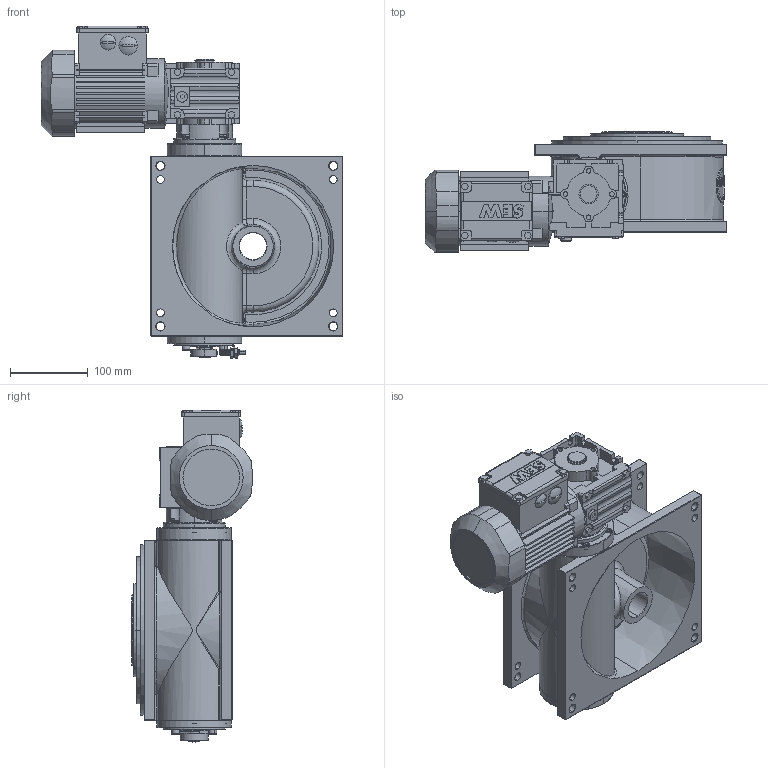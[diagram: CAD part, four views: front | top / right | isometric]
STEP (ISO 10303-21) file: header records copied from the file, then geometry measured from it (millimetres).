
FILE_DESCRIPTION (( 'STEP AP214' ), '1' );
FILE_NAME ('M190_SEW_WAF10DR2S56M4_D3.STEP', '2021-01-25T15:22:02', ( '' ), ( '' ), 'SwSTEP 2.0', 'SolidWorks 2020', '' );
FILE_SCHEMA (( 'AUTOMOTIVE_DESIGN' ));
Length unit declared in the file: millimetre
Products named in the file (1): M190_SEW_WAF10DR2S56M4_D3
Bounding box: 389.5 x 155.54 x 428.25 mm (x, y, z)
Surface area: 548375.1 mm2 (no closed solid volume)
Topology: 0 solids, 55 shells, 1441 faces, 4455 edges, 2941 vertices
Faces by surface type: plane 700, cylinder 426, cone 154, bspline 80, torus 65, sphere 16
Entity records: 74400 total; most frequent: CARTESIAN_POINT 19562, DIRECTION 8080, ORIENTED_EDGE 7705, EDGE_CURVE 4423, VERTEX_POINT 2941, AXIS2_PLACEMENT_3D 2769, VECTOR 2542, LINE 2542
